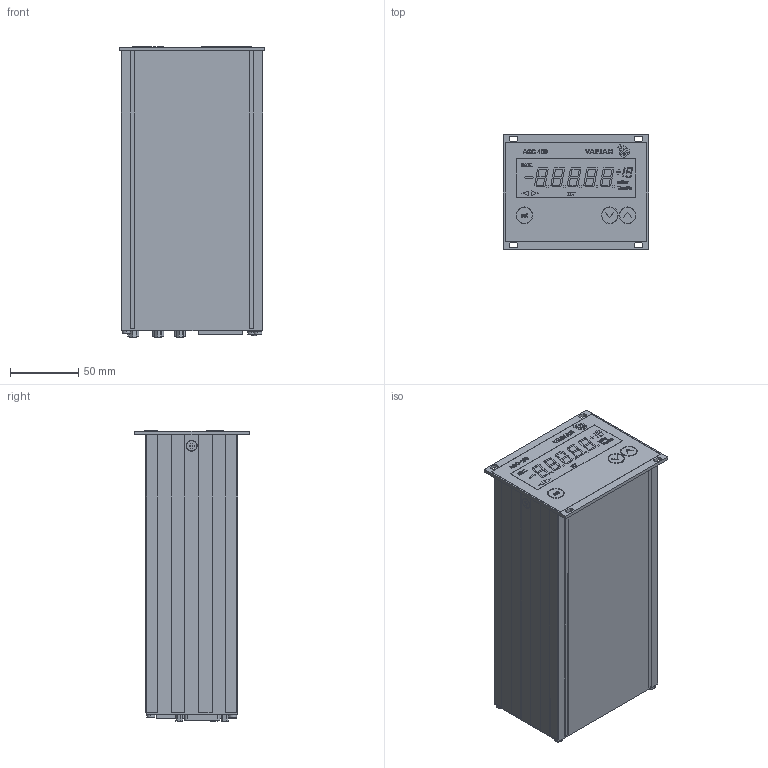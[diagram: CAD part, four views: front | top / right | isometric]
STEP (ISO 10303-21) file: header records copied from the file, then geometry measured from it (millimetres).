
FILE_DESCRIPTION (( 'STEP AP214' ), '1' );
FILE_NAME ('AGC100.STEP', '2022-08-19T12:28:18', ( '' ), ( '' ), 'SwSTEP 2.0', 'SolidWorks 2011', '' );
FILE_SCHEMA (( 'AUTOMOTIVE_DESIGN' ));
Length unit declared in the file: inch
Products named in the file (1): AGC100
Bounding box: 106.2 x 84 x 212.21 mm (x, y, z)
Volume: 209944 mm3; surface area: 218470.8 mm2
Topology: 8 solids, 8 shells, 2004 faces, 5449 edges, 3624 vertices
Faces by surface type: plane 1454, cylinder 301, bspline 237, cone 12
Entity records: 83579 total; most frequent: CARTESIAN_POINT 22179, ORIENTED_EDGE 10898, DIRECTION 9217, EDGE_CURVE 5449, LINE 4225, VECTOR 4225, VERTEX_POINT 3624, AXIS2_PLACEMENT_3D 2496
